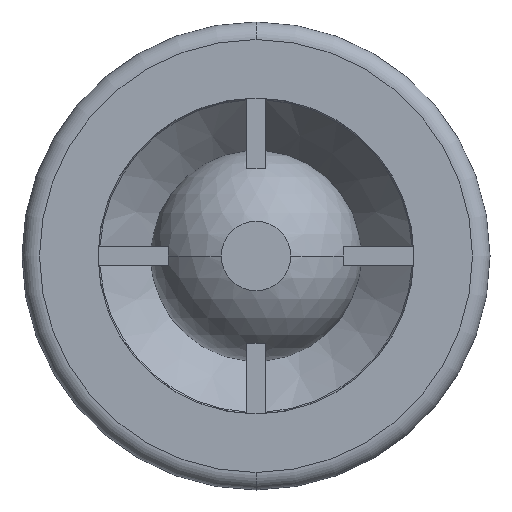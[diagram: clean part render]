
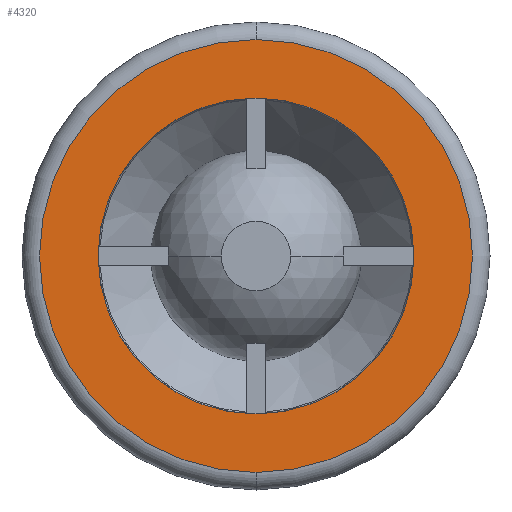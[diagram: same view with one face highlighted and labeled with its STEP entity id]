
A CAD part, front view. The second image highlights one B-rep face of the part: STEP entity #4320.
In plain terms, the highlighted planar face has unit normal (0, -1, 0).
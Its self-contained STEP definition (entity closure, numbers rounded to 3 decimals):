
#137 = EDGE_LOOP ( 'NONE', ( #4315, #4318 ) ) ;
#172 = ORIENTED_EDGE ( 'NONE', *, *, #364, .F. ) ;
#173 = ORIENTED_EDGE ( 'NONE', *, *, #330, .F. ) ;
#274 = EDGE_CURVE ( 'NONE', #275, #276, #1740, .T. ) ;
#275 = VERTEX_POINT ( 'NONE', #1796 ) ;
#276 = VERTEX_POINT ( 'NONE', #1795 ) ;
#328 = VERTEX_POINT ( 'NONE', #1872 ) ;
#330 = EDGE_CURVE ( 'NONE', #328, #331, #1871, .T. ) ;
#331 = VERTEX_POINT ( 'NONE', #1866 ) ;
#364 = EDGE_CURVE ( 'NONE', #331, #328, #1933, .T. ) ;
#1740 = CIRCLE ( 'NONE', #1800, 18.5 ) ;
#1795 = CARTESIAN_POINT ( 'NONE',  ( 0., 0., 18.5 ) ) ;
#1796 = CARTESIAN_POINT ( 'NONE',  ( 0., 0., -18.5 ) ) ;
#1797 = DIRECTION ( 'NONE',  ( 0., 0., 1. ) ) ;
#1798 = DIRECTION ( 'NONE',  ( 0., -1., 0. ) ) ;
#1799 = CARTESIAN_POINT ( 'NONE',  ( 0., 0., 0. ) ) ;
#1800 = AXIS2_PLACEMENT_3D ( 'NONE', #1799, #1798, #1797 ) ;
#1866 = CARTESIAN_POINT ( 'NONE',  ( 0., 0., -13.5 ) ) ;
#1867 = DIRECTION ( 'NONE',  ( 0., 0., -1. ) ) ;
#1868 = DIRECTION ( 'NONE',  ( 0., -1., 0. ) ) ;
#1869 = CARTESIAN_POINT ( 'NONE',  ( 0., 0., 0. ) ) ;
#1870 = AXIS2_PLACEMENT_3D ( 'NONE', #1869, #1868, #1867 ) ;
#1871 = CIRCLE ( 'NONE', #1870, 13.5 ) ;
#1872 = CARTESIAN_POINT ( 'NONE',  ( 0., 0., 13.5 ) ) ;
#1929 = DIRECTION ( 'NONE',  ( 0., 0., -1. ) ) ;
#1930 = DIRECTION ( 'NONE',  ( 0., -1., 0. ) ) ;
#1931 = CARTESIAN_POINT ( 'NONE',  ( 0., 0., 0. ) ) ;
#1932 = AXIS2_PLACEMENT_3D ( 'NONE', #1931, #1930, #1929 ) ;
#1933 = CIRCLE ( 'NONE', #1932, 13.5 ) ;
#3802 = DIRECTION ( 'NONE',  ( 0., 0., 1. ) ) ;
#3803 = DIRECTION ( 'NONE',  ( 0., -1., 0. ) ) ;
#3804 = AXIS2_PLACEMENT_3D ( 'NONE', #3808, #3803, #3802 ) ;
#3805 = CIRCLE ( 'NONE', #3804, 18.5 ) ;
#3808 = CARTESIAN_POINT ( 'NONE',  ( 0., 0., 0. ) ) ;
#3853 = DIRECTION ( 'NONE',  ( 0., 0., 1. ) ) ;
#3854 = DIRECTION ( 'NONE',  ( 0., 1., 0. ) ) ;
#3855 = CARTESIAN_POINT ( 'NONE',  ( -13.5, 0., 0. ) ) ;
#3856 = AXIS2_PLACEMENT_3D ( 'NONE', #3855, #3854, #3853 ) ;
#3857 = PLANE ( 'NONE',  #3856 ) ;
#3858 = FACE_BOUND ( 'NONE', #4317, .T. ) ;
#3859 = FACE_OUTER_BOUND ( 'NONE', #137, .T. ) ;
#4312 = EDGE_CURVE ( 'NONE', #276, #275, #3805, .T. ) ;
#4315 = ORIENTED_EDGE ( 'NONE', *, *, #4312, .T. ) ;
#4317 = EDGE_LOOP ( 'NONE', ( #172, #173 ) ) ;
#4318 = ORIENTED_EDGE ( 'NONE', *, *, #274, .T. ) ;
#4320 = ADVANCED_FACE ( 'NONE', ( #3859, #3858 ), #3857, .F. ) ;
